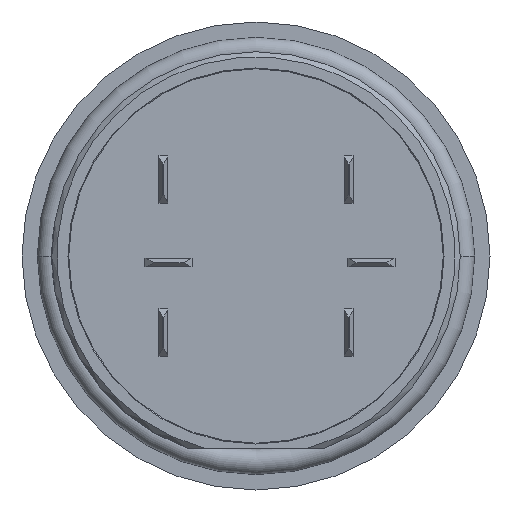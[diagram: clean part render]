
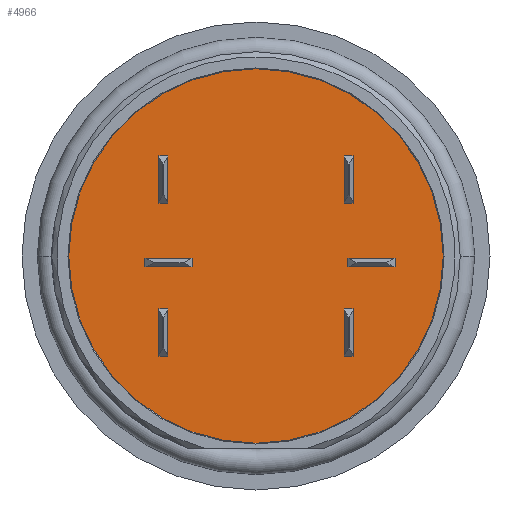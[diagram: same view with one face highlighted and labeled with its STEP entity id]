
A CAD part, front view. The second image highlights one B-rep face of the part: STEP entity #4966.
In plain terms, the highlighted planar face has unit normal (0, -1, 0).
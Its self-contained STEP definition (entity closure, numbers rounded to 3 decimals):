
#33=DIRECTION('',(0.,0.,1.));
#34=VECTOR('',#33,2.8);
#35=CARTESIAN_POINT('',(5.2,-22.5,3.1));
#36=LINE('',#35,#34);
#67=CARTESIAN_POINT('',(0.,-22.5,0.));
#68=DIRECTION('',(0.,-1.,0.));
#69=DIRECTION('',(0.,0.,-1.));
#70=AXIS2_PLACEMENT_3D('',#67,#68,#69);
#72=CARTESIAN_POINT('',(0.,-22.5,0.));
#73=DIRECTION('',(0.,-1.,0.));
#74=DIRECTION('',(0.,0.,1.));
#75=AXIS2_PLACEMENT_3D('',#72,#73,#74);
#2911=DIRECTION('',(0.,0.,-1.));
#2912=VECTOR('',#2911,0.5);
#2913=CARTESIAN_POINT('',(5.375,-22.5,-0.14));
#2914=LINE('',#2913,#2912);
#2927=DIRECTION('',(1.,0.,0.));
#2928=VECTOR('',#2927,2.8);
#2929=CARTESIAN_POINT('',(5.375,-22.5,-0.14));
#2930=LINE('',#2929,#2928);
#2961=DIRECTION('',(0.,0.,-1.));
#2962=VECTOR('',#2961,0.5);
#2963=CARTESIAN_POINT('',(8.175,-22.5,-0.14));
#2964=LINE('',#2963,#2962);
#2977=DIRECTION('',(1.,0.,0.));
#2978=VECTOR('',#2977,2.8);
#2979=CARTESIAN_POINT('',(5.375,-22.5,-0.64));
#2980=LINE('',#2979,#2978);
#3059=DIRECTION('',(0.,0.,-1.));
#3060=VECTOR('',#3059,0.5);
#3061=CARTESIAN_POINT('',(-6.525,-22.5,-0.14));
#3062=LINE('',#3061,#3060);
#3075=DIRECTION('',(1.,0.,0.));
#3076=VECTOR('',#3075,2.8);
#3077=CARTESIAN_POINT('',(-6.525,-22.5,-0.14));
#3078=LINE('',#3077,#3076);
#3109=DIRECTION('',(0.,0.,-1.));
#3110=VECTOR('',#3109,0.5);
#3111=CARTESIAN_POINT('',(-3.725,-22.5,-0.14));
#3112=LINE('',#3111,#3110);
#3125=DIRECTION('',(1.,0.,0.));
#3126=VECTOR('',#3125,2.8);
#3127=CARTESIAN_POINT('',(-6.525,-22.5,-0.64));
#3128=LINE('',#3127,#3126);
#3207=DIRECTION('',(-1.,0.,0.));
#3208=VECTOR('',#3207,0.5);
#3209=CARTESIAN_POINT('',(-5.2,-22.5,5.9));
#3210=LINE('',#3209,#3208);
#3223=DIRECTION('',(0.,0.,-1.));
#3224=VECTOR('',#3223,2.8);
#3225=CARTESIAN_POINT('',(-5.2,-22.5,5.9));
#3226=LINE('',#3225,#3224);
#3257=DIRECTION('',(-1.,0.,0.));
#3258=VECTOR('',#3257,0.5);
#3259=CARTESIAN_POINT('',(-5.2,-22.5,3.1));
#3260=LINE('',#3259,#3258);
#3273=DIRECTION('',(0.,0.,-1.));
#3274=VECTOR('',#3273,2.8);
#3275=CARTESIAN_POINT('',(-5.7,-22.5,5.9));
#3276=LINE('',#3275,#3274);
#3355=DIRECTION('',(1.,0.,0.));
#3356=VECTOR('',#3355,0.5);
#3357=CARTESIAN_POINT('',(5.2,-22.5,3.1));
#3358=LINE('',#3357,#3356);
#3371=DIRECTION('',(0.,0.,1.));
#3372=VECTOR('',#3371,2.8);
#3373=CARTESIAN_POINT('',(5.7,-22.5,3.1));
#3374=LINE('',#3373,#3372);
#3405=DIRECTION('',(1.,0.,0.));
#3406=VECTOR('',#3405,0.5);
#3407=CARTESIAN_POINT('',(5.2,-22.5,5.9));
#3408=LINE('',#3407,#3406);
#3437=DIRECTION('',(-1.,0.,0.));
#3438=VECTOR('',#3437,0.5);
#3439=CARTESIAN_POINT('',(-5.2,-22.5,-3.1));
#3440=LINE('',#3439,#3438);
#3453=DIRECTION('',(0.,0.,-1.));
#3454=VECTOR('',#3453,2.8);
#3455=CARTESIAN_POINT('',(-5.2,-22.5,-3.1));
#3456=LINE('',#3455,#3454);
#3487=DIRECTION('',(-1.,0.,0.));
#3488=VECTOR('',#3487,0.5);
#3489=CARTESIAN_POINT('',(-5.2,-22.5,-5.9));
#3490=LINE('',#3489,#3488);
#3503=DIRECTION('',(0.,0.,-1.));
#3504=VECTOR('',#3503,2.8);
#3505=CARTESIAN_POINT('',(-5.7,-22.5,-3.1));
#3506=LINE('',#3505,#3504);
#3585=DIRECTION('',(1.,0.,0.));
#3586=VECTOR('',#3585,0.5);
#3587=CARTESIAN_POINT('',(5.2,-22.5,-5.9));
#3588=LINE('',#3587,#3586);
#3601=DIRECTION('',(0.,0.,1.));
#3602=VECTOR('',#3601,2.8);
#3603=CARTESIAN_POINT('',(5.2,-22.5,-5.9));
#3604=LINE('',#3603,#3602);
#3635=DIRECTION('',(1.,0.,0.));
#3636=VECTOR('',#3635,0.5);
#3637=CARTESIAN_POINT('',(5.2,-22.5,-3.1));
#3638=LINE('',#3637,#3636);
#3651=DIRECTION('',(0.,0.,1.));
#3652=VECTOR('',#3651,2.8);
#3653=CARTESIAN_POINT('',(5.7,-22.5,-5.9));
#3654=LINE('',#3653,#3652);
#4645=CARTESIAN_POINT('',(0.,-22.5,-11.));
#4646=CARTESIAN_POINT('',(0.,-22.5,11.));
#4647=VERTEX_POINT('',#4645);
#4648=VERTEX_POINT('',#4646);
#4697=CARTESIAN_POINT('',(5.375,-22.5,-0.14));
#4698=CARTESIAN_POINT('',(5.375,-22.5,-0.64));
#4699=VERTEX_POINT('',#4697);
#4700=VERTEX_POINT('',#4698);
#4705=CARTESIAN_POINT('',(8.175,-22.5,-0.14));
#4706=CARTESIAN_POINT('',(8.175,-22.5,-0.64));
#4707=VERTEX_POINT('',#4705);
#4708=VERTEX_POINT('',#4706);
#4713=CARTESIAN_POINT('',(-6.525,-22.5,-0.14));
#4714=CARTESIAN_POINT('',(-6.525,-22.5,-0.64));
#4715=VERTEX_POINT('',#4713);
#4716=VERTEX_POINT('',#4714);
#4721=CARTESIAN_POINT('',(-3.725,-22.5,-0.14));
#4722=CARTESIAN_POINT('',(-3.725,-22.5,-0.64));
#4723=VERTEX_POINT('',#4721);
#4724=VERTEX_POINT('',#4722);
#4729=CARTESIAN_POINT('',(-5.2,-22.5,5.9));
#4730=CARTESIAN_POINT('',(-5.7,-22.5,5.9));
#4731=VERTEX_POINT('',#4729);
#4732=VERTEX_POINT('',#4730);
#4737=CARTESIAN_POINT('',(-5.2,-22.5,3.1));
#4738=CARTESIAN_POINT('',(-5.7,-22.5,3.1));
#4739=VERTEX_POINT('',#4737);
#4740=VERTEX_POINT('',#4738);
#4745=CARTESIAN_POINT('',(5.2,-22.5,3.1));
#4746=CARTESIAN_POINT('',(5.7,-22.5,3.1));
#4747=VERTEX_POINT('',#4745);
#4748=VERTEX_POINT('',#4746);
#4753=CARTESIAN_POINT('',(5.2,-22.5,5.9));
#4754=CARTESIAN_POINT('',(5.7,-22.5,5.9));
#4755=VERTEX_POINT('',#4753);
#4756=VERTEX_POINT('',#4754);
#4761=CARTESIAN_POINT('',(-5.2,-22.5,-3.1));
#4762=CARTESIAN_POINT('',(-5.7,-22.5,-3.1));
#4763=VERTEX_POINT('',#4761);
#4764=VERTEX_POINT('',#4762);
#4769=CARTESIAN_POINT('',(-5.2,-22.5,-5.9));
#4770=CARTESIAN_POINT('',(-5.7,-22.5,-5.9));
#4771=VERTEX_POINT('',#4769);
#4772=VERTEX_POINT('',#4770);
#4777=CARTESIAN_POINT('',(5.2,-22.5,-5.9));
#4778=CARTESIAN_POINT('',(5.7,-22.5,-5.9));
#4779=VERTEX_POINT('',#4777);
#4780=VERTEX_POINT('',#4778);
#4785=CARTESIAN_POINT('',(5.2,-22.5,-3.1));
#4786=CARTESIAN_POINT('',(5.7,-22.5,-3.1));
#4787=VERTEX_POINT('',#4785);
#4788=VERTEX_POINT('',#4786);
#4896=CARTESIAN_POINT('',(0.,-22.5,0.));
#4897=DIRECTION('',(0.,-1.,0.));
#4898=DIRECTION('',(-1.,0.,0.));
#4899=AXIS2_PLACEMENT_3D('',#4896,#4897,#4898);
#4900=PLANE('',#4899);
#4902=ORIENTED_EDGE('',*,*,#4901,.F.);
#4904=ORIENTED_EDGE('',*,*,#4903,.F.);
#4905=EDGE_LOOP('',(#4902,#4904));
#4906=FACE_OUTER_BOUND('',#4905,.F.);
#4908=ORIENTED_EDGE('',*,*,#4907,.T.);
#4910=ORIENTED_EDGE('',*,*,#4909,.T.);
#4912=ORIENTED_EDGE('',*,*,#4911,.F.);
#4914=ORIENTED_EDGE('',*,*,#4913,.F.);
#4915=EDGE_LOOP('',(#4908,#4910,#4912,#4914));
#4916=FACE_BOUND('',#4915,.F.);
#4918=ORIENTED_EDGE('',*,*,#4917,.T.);
#4920=ORIENTED_EDGE('',*,*,#4919,.T.);
#4922=ORIENTED_EDGE('',*,*,#4921,.F.);
#4924=ORIENTED_EDGE('',*,*,#4923,.F.);
#4925=EDGE_LOOP('',(#4918,#4920,#4922,#4924));
#4926=FACE_BOUND('',#4925,.F.);
#4928=ORIENTED_EDGE('',*,*,#4927,.T.);
#4930=ORIENTED_EDGE('',*,*,#4929,.T.);
#4932=ORIENTED_EDGE('',*,*,#4931,.F.);
#4934=ORIENTED_EDGE('',*,*,#4933,.F.);
#4935=EDGE_LOOP('',(#4928,#4930,#4932,#4934));
#4936=FACE_BOUND('',#4935,.F.);
#4938=ORIENTED_EDGE('',*,*,#4937,.T.);
#4940=ORIENTED_EDGE('',*,*,#4939,.T.);
#4942=ORIENTED_EDGE('',*,*,#4941,.F.);
#4943=ORIENTED_EDGE('',*,*,#4874,.F.);
#4944=EDGE_LOOP('',(#4938,#4940,#4942,#4943));
#4945=FACE_BOUND('',#4944,.F.);
#4947=ORIENTED_EDGE('',*,*,#4946,.T.);
#4949=ORIENTED_EDGE('',*,*,#4948,.T.);
#4951=ORIENTED_EDGE('',*,*,#4950,.F.);
#4953=ORIENTED_EDGE('',*,*,#4952,.F.);
#4954=EDGE_LOOP('',(#4947,#4949,#4951,#4953));
#4955=FACE_BOUND('',#4954,.F.);
#4957=ORIENTED_EDGE('',*,*,#4956,.T.);
#4959=ORIENTED_EDGE('',*,*,#4958,.T.);
#4961=ORIENTED_EDGE('',*,*,#4960,.F.);
#4963=ORIENTED_EDGE('',*,*,#4962,.F.);
#4964=EDGE_LOOP('',(#4957,#4959,#4961,#4963));
#4965=FACE_BOUND('',#4964,.F.);
#4966=ADVANCED_FACE('',(#4906,#4916,#4926,#4936,#4945,#4955,#4965),#4900,.T.);
#71=CIRCLE('',#70,11.);
#76=CIRCLE('',#75,11.);
#4874=EDGE_CURVE('',#4747,#4755,#36,.T.);
#4901=EDGE_CURVE('',#4647,#4648,#71,.T.);
#4903=EDGE_CURVE('',#4648,#4647,#76,.T.);
#4907=EDGE_CURVE('',#4699,#4700,#2914,.T.);
#4909=EDGE_CURVE('',#4700,#4708,#2980,.T.);
#4911=EDGE_CURVE('',#4707,#4708,#2964,.T.);
#4913=EDGE_CURVE('',#4699,#4707,#2930,.T.);
#4917=EDGE_CURVE('',#4715,#4716,#3062,.T.);
#4919=EDGE_CURVE('',#4716,#4724,#3128,.T.);
#4921=EDGE_CURVE('',#4723,#4724,#3112,.T.);
#4923=EDGE_CURVE('',#4715,#4723,#3078,.T.);
#4927=EDGE_CURVE('',#4731,#4732,#3210,.T.);
#4929=EDGE_CURVE('',#4732,#4740,#3276,.T.);
#4931=EDGE_CURVE('',#4739,#4740,#3260,.T.);
#4933=EDGE_CURVE('',#4731,#4739,#3226,.T.);
#4937=EDGE_CURVE('',#4747,#4748,#3358,.T.);
#4939=EDGE_CURVE('',#4748,#4756,#3374,.T.);
#4941=EDGE_CURVE('',#4755,#4756,#3408,.T.);
#4946=EDGE_CURVE('',#4763,#4764,#3440,.T.);
#4948=EDGE_CURVE('',#4764,#4772,#3506,.T.);
#4950=EDGE_CURVE('',#4771,#4772,#3490,.T.);
#4952=EDGE_CURVE('',#4763,#4771,#3456,.T.);
#4956=EDGE_CURVE('',#4779,#4780,#3588,.T.);
#4958=EDGE_CURVE('',#4780,#4788,#3654,.T.);
#4960=EDGE_CURVE('',#4787,#4788,#3638,.T.);
#4962=EDGE_CURVE('',#4779,#4787,#3604,.T.);
